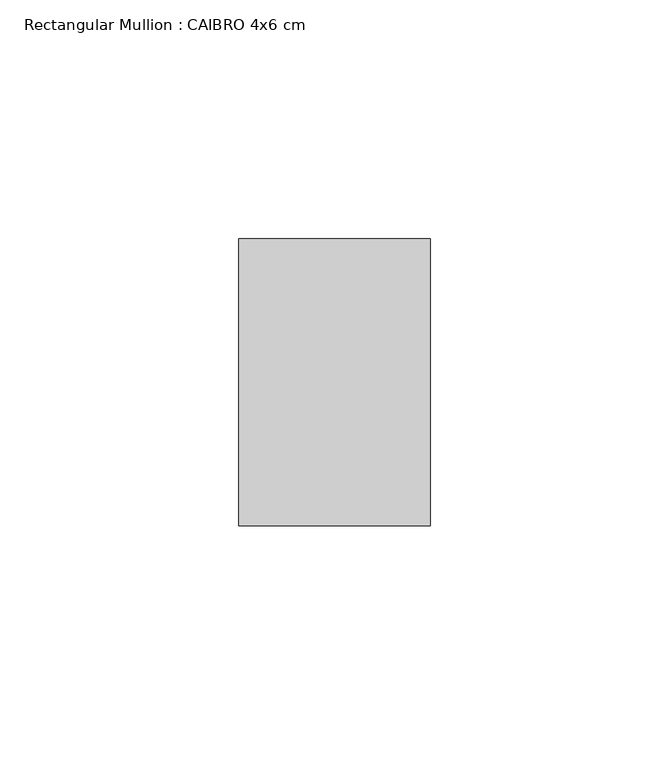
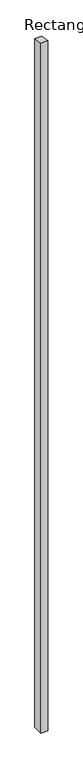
"""IFC4 building model written with IfcOpenShell, lengths in millimetres: member geometry, Rectangular Mullion : CAIBRO 4x6 cm."""

import ifcopenshell
import ifcopenshell.guid

model = None  # the IFC model being written
_history = None  # IfcOwnerHistory: only IFC2X3 demands one
_inside = {}  # id of a spatial element -> (the spatial element, [elements in it])
_under = {}  # id of a project, library or spatial element -> (it, [spatial elements below it])
_declared = {}  # id of a project -> (the project, [libraries it declares])
_typed = {}  # id of a type object -> (the type object, [elements of that type])
_made_of = {}  # id of a material, layer set ... -> (it, [elements and type objects made of it])


def new_model(schema):
    """Start an empty IFC model of exactly this schema.

    Asked for "IFC4X3", IfcOpenShell would pick the latest addendum, in which some entities
    have other attributes; the version numbers below select the first issue.
    IFC2X3 requires an IfcOwnerHistory on every rooted entity: one is made here for all.
    """
    global model, _history
    if schema == "IFC4X3":
        model = ifcopenshell.file(schema_version=(4, 3, 0, 0))
    else:
        model = ifcopenshell.file(schema=schema)
    _inside.clear()
    _under.clear()
    _declared.clear()
    _typed.clear()
    _made_of.clear()
    _history = None
    if model.schema == "IFC2X3":
        org = make("IfcOrganization", Name="unknown")
        user = make(
            "IfcPersonAndOrganization",
            ThePerson=make("IfcPerson", FamilyName="unknown"),
            TheOrganization=org,
        )
        app = make(
            "IfcApplication",
            ApplicationDeveloper=org,
            Version="unknown",
            ApplicationFullName="unknown",
            ApplicationIdentifier="unknown",
        )
        _history = make(
            "IfcOwnerHistory",
            OwningUser=user,
            OwningApplication=app,
            ChangeAction="ADDED",
            CreationDate=0,
        )
    return model


def make(cls, **values):
    """One entity of the class cls with the attributes given. An attribute that is None is left unset."""
    return model.create_entity(
        cls, **{name: value for name, value in values.items() if value is not None}
    )


def rooted(cls, **values):
    """An entity with a GlobalId (a new one), such as an element, a storey or a relation."""
    return make(cls, GlobalId=ifcopenshell.guid.new(), OwnerHistory=_history, **values)


def si_unit(unit_type, name, prefix=None):
    """IfcSIUnit, for example si_unit("LENGTHUNIT", "METRE", prefix="MILLI")."""
    return make("IfcSIUnit", UnitType=unit_type, Prefix=prefix, Name=name)


def assignment(units):
    """IfcUnitAssignment: the units of a project."""
    return None if units is None else make("IfcUnitAssignment", Units=units)


def point(xyz):
    """IfcCartesianPoint."""
    return None if xyz is None else make("IfcCartesianPoint", Coordinates=xyz)


def direction(xyz):
    """IfcDirection."""
    return None if xyz is None else make("IfcDirection", DirectionRatios=xyz)


def frame(location, z_axis=None, x_axis=None):
    """IfcAxis2Placement3D, a coordinate frame: its origin and axes. An axis left out is left unset."""
    return make(
        "IfcAxis2Placement3D",
        Location=point(location),
        Axis=direction(z_axis),
        RefDirection=direction(x_axis),
    )


def origin():
    """The frame at (0, 0, 0) with its axes left unset."""
    return frame((0.0, 0.0, 0.0))


def place(relative_to, where):
    """IfcLocalPlacement: puts the frame where relative to a parent placement (None: the world)."""
    return make(
        "IfcLocalPlacement", PlacementRelTo=relative_to, RelativePlacement=where
    )


def context(
    kind, dimensions, precision=None, world=None, true_north=None, identifier=None
):
    """IfcGeometricRepresentationContext, for example the 3D "Model" context."""
    return make(
        "IfcGeometricRepresentationContext",
        ContextIdentifier=identifier,
        ContextType=kind,
        CoordinateSpaceDimension=dimensions,
        Precision=precision,
        WorldCoordinateSystem=world,
        TrueNorth=true_north,
    )


def project(units=None, contexts=None):
    """IfcProject with its units and contexts."""
    return rooted(
        "IfcProject",
        Name="project",
        RepresentationContexts=contexts,
        UnitsInContext=assignment(units),
    )


def spatial(cls, under=None, at=None, **own):
    """A site, building, storey or space (cls), placed at a placement, below another one or the project."""
    s = rooted(cls, ObjectPlacement=at, **own)
    if under is not None:
        _under.setdefault(under.id(), (under, []))[1].append(s)
    return s


def polyline(points):
    """IfcPolyline through the points."""
    return make("IfcPolyline", Points=[point(p) for p in points])


def outline(outer, holes=None, kind="AREA"):
    """IfcArbitraryClosedProfileDef: a profile drawn as a closed curve; with holes, ...WithVoids."""
    if holes is None:
        return make("IfcArbitraryClosedProfileDef", ProfileType=kind, OuterCurve=outer)
    return make(
        "IfcArbitraryProfileDefWithVoids",
        ProfileType=kind,
        OuterCurve=outer,
        InnerCurves=holes,
    )


def extrude(swept, where, along, depth):
    """IfcExtrudedAreaSolid: the profile swept, set in the frame where, extruded along a direction by depth."""
    return make(
        "IfcExtrudedAreaSolid",
        SweptArea=swept,
        Position=where,
        ExtrudedDirection=direction(along),
        Depth=depth,
    )


def shape(context_of_items, identifier, shape_type, items):
    """IfcShapeRepresentation: the items that make up one representation, for example the "Body"."""
    return make(
        "IfcShapeRepresentation",
        ContextOfItems=context_of_items,
        RepresentationIdentifier=identifier,
        RepresentationType=shape_type,
        Items=items,
    )


def source(mapping_origin, context_of_items, identifier, shape_type, items):
    """IfcRepresentationMap: a shape defined once, which mapped items show again and again."""
    return make(
        "IfcRepresentationMap",
        MappingOrigin=mapping_origin,
        MappedRepresentation=shape(context_of_items, identifier, shape_type, items),
    )


def transform(
    local_origin,
    x_axis=None,
    y_axis=None,
    z_axis=None,
    scale=None,
    scale2=None,
    scale3=None,
    uniform=True,
):
    """IfcCartesianTransformationOperator3D, or its non-uniform kind. x_axis, y_axis, z_axis: its Axis1, 2, 3."""
    if uniform:
        return make(
            "IfcCartesianTransformationOperator3D",
            Axis1=direction(x_axis),
            Axis2=direction(y_axis),
            LocalOrigin=point(local_origin),
            Scale=scale,
            Axis3=direction(z_axis),
        )
    return make(
        "IfcCartesianTransformationOperator3DnonUniform",
        Axis1=direction(x_axis),
        Axis2=direction(y_axis),
        LocalOrigin=point(local_origin),
        Scale=scale,
        Axis3=direction(z_axis),
        Scale2=scale2,
        Scale3=scale3,
    )


def mapped(mapping_source, mapping_target):
    """IfcMappedItem: shows the shape of a source again, moved by a transform."""
    return make(
        "IfcMappedItem", MappingSource=mapping_source, MappingTarget=mapping_target
    )


def made_of(thing, what):
    """Note that an element or type object is made of a material, layer set ...; save() writes the relation."""
    if what is not None:
        _made_of.setdefault(what.id(), (what, []))[1].append(thing)
    return thing


def element(
    cls,
    number,
    at=None,
    inside=None,
    cuts=None,
    type_object=None,
    material=None,
    context=None,
    identifier="Body",
    shape_type=None,
    held_by="IfcProductDefinitionShape",
    body=None,
    shapes=None,
    **own,
):
    """One element of the class cls, such as IfcWall. Its Tag is "e" and its number.

    at: its placement. inside: the storey or other place that contains it. cuts: it is an
    opening in that element (IfcRelVoidsElement). A single representation is given by context,
    identifier, shape_type and body (its items); several are given by shapes. held_by: the class
    of the entity that holds the representations. save() writes the other relations.
    """
    e = rooted(cls, Tag="e%d" % number, ObjectPlacement=at, **own)
    if body is not None:
        shapes = [shape(context, identifier, shape_type, body)]
    if shapes is not None:
        e.Representation = make(held_by, Representations=shapes)
    if inside is not None:
        _inside.setdefault(inside.id(), (inside, []))[1].append(e)
    if cuts is not None:
        rooted(
            "IfcRelVoidsElement", RelatingBuildingElement=cuts, RelatedOpeningElement=e
        )
    if type_object is not None:
        _typed.setdefault(type_object.id(), (type_object, []))[1].append(e)
    return made_of(e, material)


def aggregate(whole, parts):
    """IfcRelAggregates: a whole, such as a stair, and the parts it consists of."""
    return rooted("IfcRelAggregates", RelatingObject=whole, RelatedObjects=parts)


def save(model, path):
    """Write the relations noted so far, then the file.

    IfcRelAggregates (storeys below a building ...), IfcRelContainedInSpatialStructure (elements
    in a storey), IfcRelDefinesByType, IfcRelAssociatesMaterial and IfcRelDeclares: one each for
    every whole, place, type object, material and project.
    """
    for whole, parts in _under.values():
        aggregate(whole, parts)
    for where, things in _inside.values():
        rooted(
            "IfcRelContainedInSpatialStructure",
            RelatedElements=things,
            RelatingStructure=where,
        )
    for kind, things in _typed.values():
        rooted("IfcRelDefinesByType", RelatedObjects=things, RelatingType=kind)
    for what, things in _made_of.values():
        rooted("IfcRelAssociatesMaterial", RelatedObjects=things, RelatingMaterial=what)
    for by, libraries in _declared.values():
        rooted("IfcRelDeclares", RelatingContext=by, RelatedDefinitions=libraries)
    model.write(path)


def rectangular_mullion_caibro_4x6_cm_eca2e789(model_context):
    return source(origin(), model_context, "Body", "SweptSolid", [
        extrude(outline(polyline([(0.0, 0.0), (60.0, -9.0), (60.0, -4181.259985), (0.0, -4181.259985), (0.0, 0.0)])), frame((-20.0, 0.0, 0.0), z_axis=(1.0, 0.0, 0.0), x_axis=(0.0, 1.0, 0.0)), (0.0, 0.0, 1.0), 40.0),
    ])


if __name__ == "__main__":
    model = new_model("IFC4")
    model_context = context("Model", 3, world=origin())
    ifc_project = project(units=[si_unit("LENGTHUNIT", "METRE", prefix="MILLI")], contexts=[model_context])
    site = spatial("IfcSite", under=ifc_project)
    building = spatial("IfcBuilding", under=site)
    placement = place(None, origin())
    rectangular_mullion_caibro_4x6_cm_shape = rectangular_mullion_caibro_4x6_cm_eca2e789(model_context)
    element("IfcMember", 1, ObjectType="Rectangular Mullion : CAIBRO 4x6 cm", at=placement, inside=building, context=model_context, shape_type="MappedRepresentation", body=[
        mapped(rectangular_mullion_caibro_4x6_cm_shape, transform((0.0, 0.0, 0.0), x_axis=(1.0, 0.0, 0.0), y_axis=(0.0, 1.0, 0.0), z_axis=(0.0, 0.0, 1.0))),
    ])
    save(model, "model.ifc")
